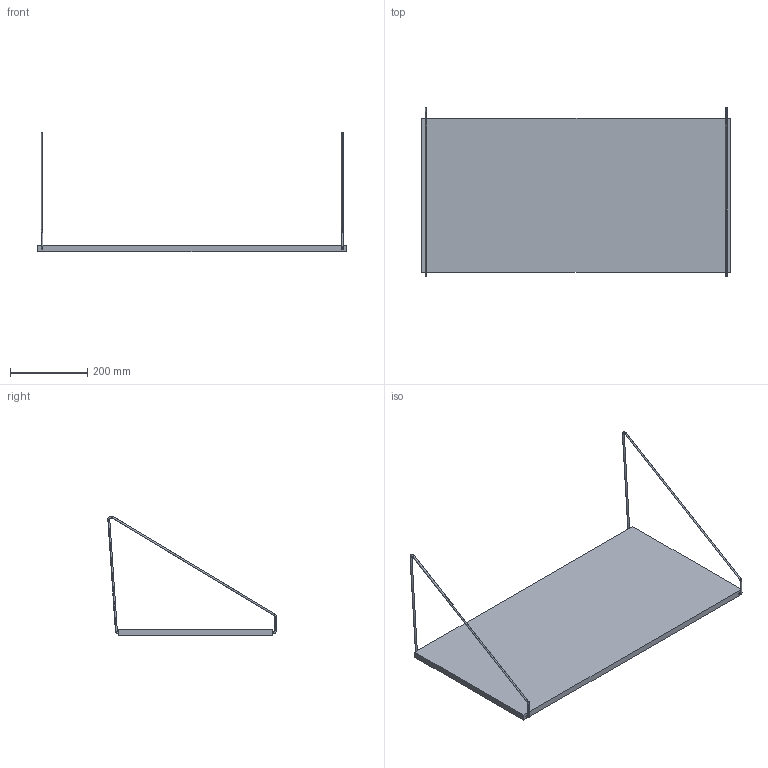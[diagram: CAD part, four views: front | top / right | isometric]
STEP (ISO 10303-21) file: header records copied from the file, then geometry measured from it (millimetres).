
FILE_DESCRIPTION(/* description */ (''),/* implementation_level */ '2;1');
FILE_NAME(/* name */ 'FRAMA_ShelfLibrary-Wood-DeskShelf-3D',/* time_stamp */ '2025-10-29T10:26:43+01:00',/* author */ (''),/* organization */ (''),/* preprocessor_version */ 'ST-DEVELOPER v16.5',/* originating_system */ 'Rhino 7.38',/* authorisation */ '');
FILE_SCHEMA (('CONFIG_CONTROL_DESIGN'));
Length unit declared in the file: millimetre
Products named in the file (1): Document
Bounding box: 800 x 437.21 x 311.28 mm (x, y, z)
Volume: 5156438.3 mm3; surface area: 707639.6 mm2
Topology: 3 solids, 3 shells, 46 faces, 144 edges, 104 vertices
Faces by surface type: cylinder 20, bspline 16, plane 10
Entity records: 2272 total; most frequent: CARTESIAN_POINT 1368, ORIENTED_EDGE 288, EDGE_CURVE 144, VERTEX_POINT 104, ADVANCED_FACE 46, FACE_OUTER_BOUND 46, EDGE_LOOP 46, B_SPLINE_CURVE_WITH_KNOTS 44
